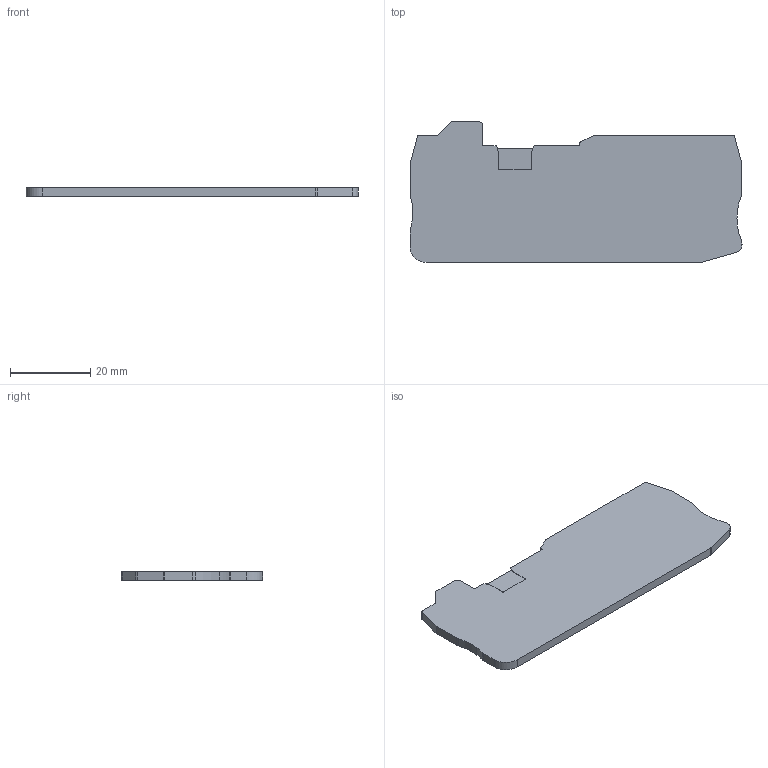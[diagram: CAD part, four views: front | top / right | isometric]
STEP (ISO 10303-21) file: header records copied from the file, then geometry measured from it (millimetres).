
FILE_DESCRIPTION(('OneSpaceDesigner STEP Export'),'2;1');
FILE_NAME('3050510_d_qtcu25_twin_select.stp','2005-03-03T14:15:32',(''),(''),'OneSpace Designer STEP processor (Jan. 2003) for AP203(Solid Model)','OneSpace Designer 12.01C 26-Mar-2004 (C) CoCreate Software GmbH','');
FILE_SCHEMA(('CONFIG_CONTROL_DESIGN'));
Length unit declared in the file: millimetre
Products named in the file (2): 3050510_d_qtcu25_twin_select
Assembly tree (1 placements, depth 2):
  3050510_d_qtcu25_twin_select
    3050510_d_qtcu25_twin_select
Bounding box: 82.5 x 35.05 x 2.2 mm (x, y, z)
Volume: 5524.8 mm3; surface area: 5546.3 mm2
Topology: 1 solids, 1 shells, 55 faces, 159 edges, 106 vertices
Faces by surface type: plane 30, cylinder 25
Entity records: 1959 total; most frequent: ORIENTED_EDGE 318, CARTESIAN_POINT 304, DIRECTION 291, EDGE_CURVE 159, VERTEX_POINT 106, VECTOR 105, LINE 105, AXIS2_PLACEMENT_3D 93
